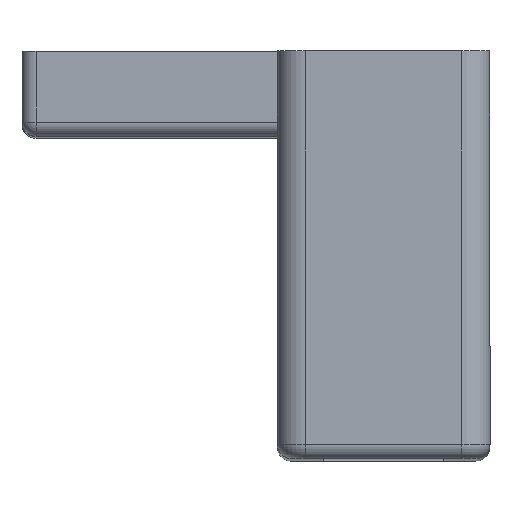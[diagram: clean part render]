
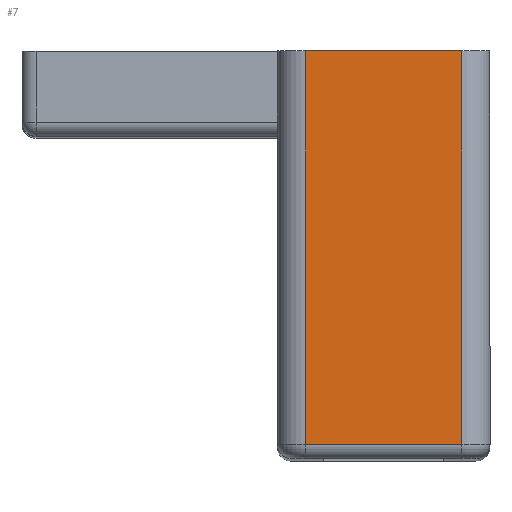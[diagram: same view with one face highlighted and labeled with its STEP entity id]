
A CAD part, top view. The second image highlights one B-rep face of the part: STEP entity #7.
In plain terms, the highlighted planar face has unit normal (0, 0, 1).
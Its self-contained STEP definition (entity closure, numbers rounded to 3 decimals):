
#7 = ADVANCED_FACE ( 'NONE', ( #345 ), #955, .T. ) ;
#45 = CARTESIAN_POINT ( 'NONE',  ( 5.5, 28.75, 98.5 ) ) ;
#47 = CARTESIAN_POINT ( 'NONE',  ( -5.5, 28.75, 98.5 ) ) ;
#345 = FACE_OUTER_BOUND ( 'NONE', #428, .T. ) ;
#372 = VERTEX_POINT ( 'NONE', #47 ) ;
#373 = VERTEX_POINT ( 'NONE', #45 ) ;
#414 = VERTEX_POINT ( 'NONE', #506 ) ;
#428 = EDGE_LOOP ( 'NONE', ( #1248, #1271, #1324, #1185 ) ) ;
#468 = VERTEX_POINT ( 'NONE', #792 ) ;
#506 = CARTESIAN_POINT ( 'NONE',  ( -5.5, 1., 98.5 ) ) ;
#598 = DIRECTION ( 'NONE',  ( 1., 0., 0. ) ) ;
#599 = DIRECTION ( 'NONE',  ( 0., 1., 0. ) ) ;
#601 = CARTESIAN_POINT ( 'NONE',  ( -5.5, 0., 98.5 ) ) ;
#606 = CARTESIAN_POINT ( 'NONE',  ( -5.5, 1., 98.5 ) ) ;
#612 = DIRECTION ( 'NONE',  ( 0., 1., 0. ) ) ;
#619 = CARTESIAN_POINT ( 'NONE',  ( 5.5, 0., 98.5 ) ) ;
#792 = CARTESIAN_POINT ( 'NONE',  ( 5.5, 1., 98.5 ) ) ;
#795 = DIRECTION ( 'NONE',  ( 1., 0., 0. ) ) ;
#797 = CARTESIAN_POINT ( 'NONE',  ( -5.5, 28.75, 98.5 ) ) ;
#952 = DIRECTION ( 'NONE',  ( 0., -1., 0. ) ) ;
#953 = DIRECTION ( 'NONE',  ( 0., 0., 1. ) ) ;
#955 = PLANE ( 'NONE',  #1455 ) ;
#957 = CARTESIAN_POINT ( 'NONE',  ( -5.5, 0., 98.5 ) ) ;
#983 = VECTOR ( 'NONE', #598, 1000. ) ;
#985 = VECTOR ( 'NONE', #599, 1000. ) ;
#987 = LINE ( 'NONE', #601, #985 ) ;
#988 = LINE ( 'NONE', #606, #983 ) ;
#989 = VECTOR ( 'NONE', #612, 1000. ) ;
#994 = LINE ( 'NONE', #619, #989 ) ;
#1075 = VECTOR ( 'NONE', #795, 1000. ) ;
#1077 = LINE ( 'NONE', #797, #1075 ) ;
#1185 = ORIENTED_EDGE ( 'NONE', *, *, #1517, .F. ) ;
#1248 = ORIENTED_EDGE ( 'NONE', *, *, #1568, .F. ) ;
#1271 = ORIENTED_EDGE ( 'NONE', *, *, #1569, .T. ) ;
#1324 = ORIENTED_EDGE ( 'NONE', *, *, #1565, .T. ) ;
#1455 = AXIS2_PLACEMENT_3D ( 'NONE', #957, #953, #952 ) ;
#1517 = EDGE_CURVE ( 'NONE', #372, #373, #1077, .T. ) ;
#1565 = EDGE_CURVE ( 'NONE', #468, #373, #994, .T. ) ;
#1568 = EDGE_CURVE ( 'NONE', #414, #372, #987, .T. ) ;
#1569 = EDGE_CURVE ( 'NONE', #414, #468, #988, .T. ) ;
